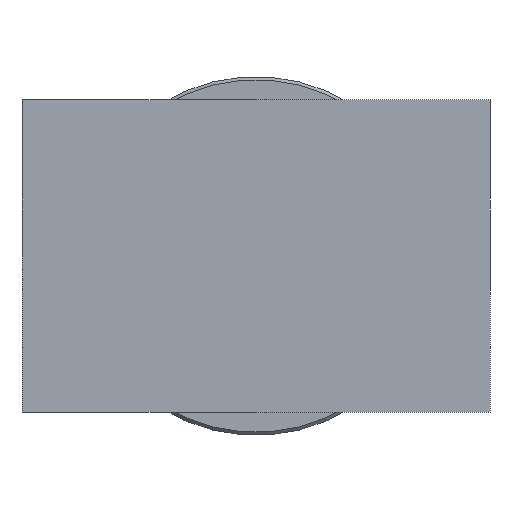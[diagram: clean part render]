
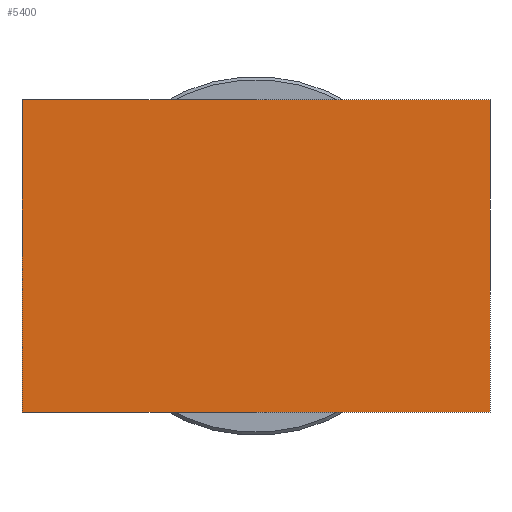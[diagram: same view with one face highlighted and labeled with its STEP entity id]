
A CAD part, front view. The second image highlights one B-rep face of the part: STEP entity #5400.
In plain terms, the highlighted planar face has unit normal (0, -1, 0).
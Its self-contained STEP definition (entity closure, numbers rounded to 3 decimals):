
#2485=LINE('',#42584,#3132);
#2491=LINE('',#43115,#3138);
#2495=LINE('',#43154,#3142);
#2497=LINE('',#43157,#3144);
#3132=VECTOR('',#20542,1.);
#3138=VECTOR('',#20562,1.);
#3142=VECTOR('',#20580,1.);
#3144=VECTOR('',#20584,1.);
#4244=FACE_OUTER_BOUND('',#7812,.T.);
#5400=ADVANCED_FACE('',(#4244),#5808,.T.);
#5808=PLANE('',#16665);
#7812=EDGE_LOOP('',(#11233,#11234,#11235,#11236));
#11233=ORIENTED_EDGE('',*,*,#14223,.T.);
#11234=ORIENTED_EDGE('',*,*,#14235,.T.);
#11235=ORIENTED_EDGE('',*,*,#14207,.T.);
#11236=ORIENTED_EDGE('',*,*,#14237,.T.);
#12480=VERTEX_POINT('',#42583);
#12481=VERTEX_POINT('',#42585);
#12494=VERTEX_POINT('',#43114);
#12495=VERTEX_POINT('',#43116);
#14207=EDGE_CURVE('',#12481,#12480,#2485,.T.);
#14223=EDGE_CURVE('',#12495,#12494,#2491,.T.);
#14235=EDGE_CURVE('',#12494,#12481,#2495,.T.);
#14237=EDGE_CURVE('',#12480,#12495,#2497,.T.);
#16665=AXIS2_PLACEMENT_3D('',#43159,#20587,#20588);
#20542=DIRECTION('',(0.,0.,1.));
#20562=DIRECTION('',(0.,0.,-1.));
#20580=DIRECTION('',(1.,0.,0.));
#20584=DIRECTION('',(-1.,0.,0.));
#20587=DIRECTION('',(0.,-1.,0.));
#20588=DIRECTION('',(0.,0.,-1.));
#42583=CARTESIAN_POINT('',(120.,-43.,1.5));
#42584=CARTESIAN_POINT('',(120.,-43.,-98.5));
#42585=CARTESIAN_POINT('',(120.,-43.,-98.5));
#43114=CARTESIAN_POINT('',(-30.,-43.,-98.5));
#43115=CARTESIAN_POINT('',(-30.,-43.,1.5));
#43116=CARTESIAN_POINT('',(-30.,-43.,1.5));
#43154=CARTESIAN_POINT('',(-30.,-43.,-98.5));
#43157=CARTESIAN_POINT('',(120.,-43.,1.5));
#43159=CARTESIAN_POINT('',(0.,-43.,0.));
